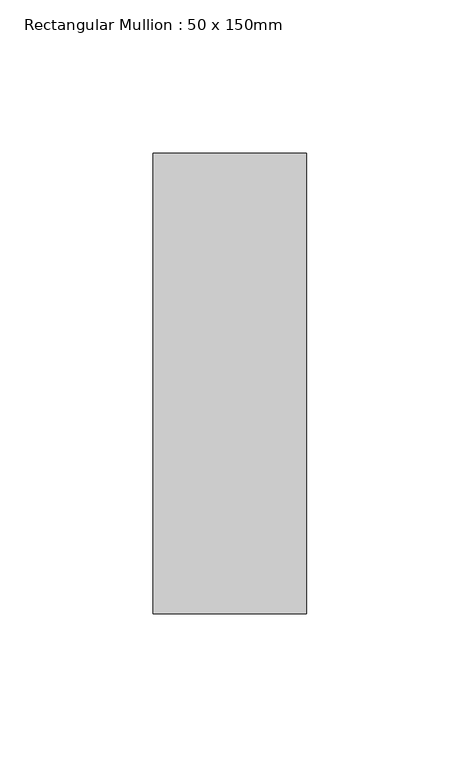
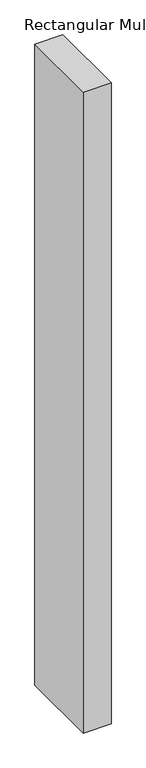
"""IFC4 building model written with IfcOpenShell, lengths in millimetres: member geometry, Rectangular Mullion : 50 x 150mm."""

from ifc_helpers import new_model, si_unit, frame, origin, place, context, project, spatial, polyline, outline, extrude, source, transform, mapped, element, save


def rectangular_mullion_50_x_150mm_dd91e440(model_context):
    return source(origin(), model_context, "Body", "SweptSolid", [
        extrude(outline(polyline([(25.0, 75.0), (25.0, -75.0), (-25.0, -75.0), (-25.0, 75.0), (25.0, 75.0)])), frame((0.0, 0.0, -1215.5555556), z_axis=(0.0, 0.0, 1.0), x_axis=(1.0, 0.0, 0.0)), (0.0, 0.0, 1.0), 1215.5555556),
    ])


if __name__ == "__main__":
    model = new_model("IFC4")
    model_context = context("Model", 3, world=origin())
    ifc_project = project(units=[si_unit("LENGTHUNIT", "METRE", prefix="MILLI")], contexts=[model_context])
    site = spatial("IfcSite", under=ifc_project)
    building = spatial("IfcBuilding", under=site)
    placement = place(None, origin())
    rectangular_mullion_50_x_150mm_shape = rectangular_mullion_50_x_150mm_dd91e440(model_context)
    element("IfcMember", 1, ObjectType="Rectangular Mullion : 50 x 150mm", at=placement, inside=building, context=model_context, shape_type="MappedRepresentation", body=[
        mapped(rectangular_mullion_50_x_150mm_shape, transform((0.0, 0.0, 0.0), x_axis=(1.0, 0.0, 0.0), y_axis=(0.0, 1.0, 0.0), z_axis=(0.0, 0.0, 1.0))),
    ])
    save(model, "model.ifc")
